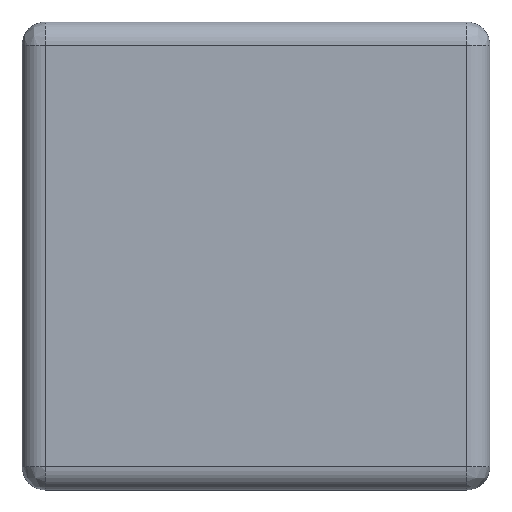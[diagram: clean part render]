
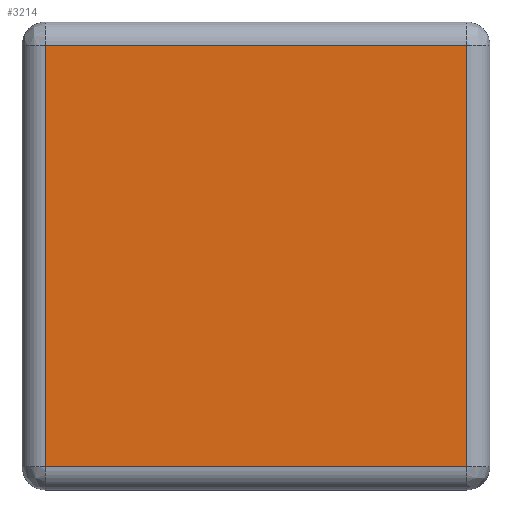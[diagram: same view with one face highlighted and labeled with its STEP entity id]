
A CAD part, top view. The second image highlights one B-rep face of the part: STEP entity #3214.
In plain terms, the highlighted planar face has unit normal (0, 0, 1).
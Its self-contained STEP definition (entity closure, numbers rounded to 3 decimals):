
#28 = FACE_OUTER_BOUND ( 'NONE', #3471, .T. ) ;
#85 = CARTESIAN_POINT ( 'NONE',  ( -18., 18., 0. ) ) ;
#118 = VECTOR ( 'NONE', #3511, 1000. ) ;
#157 = AXIS2_PLACEMENT_3D ( 'NONE', #5187, #1324, #3037 ) ;
#260 = LINE ( 'NONE', #4623, #299 ) ;
#299 = VECTOR ( 'NONE', #739, 1000. ) ;
#401 = EDGE_CURVE ( 'NONE', #709, #1022, #1631, .T. ) ;
#709 = VERTEX_POINT ( 'NONE', #5067 ) ;
#739 = DIRECTION ( 'NONE',  ( 0., -1., 0. ) ) ;
#1022 = VERTEX_POINT ( 'NONE', #2239 ) ;
#1265 = CARTESIAN_POINT ( 'NONE',  ( 18., 0., 0. ) ) ;
#1324 = DIRECTION ( 'NONE',  ( 0., 0., 1. ) ) ;
#1631 = LINE ( 'NONE', #1265, #2010 ) ;
#1634 = LINE ( 'NONE', #5499, #5242 ) ;
#1888 = EDGE_CURVE ( 'NONE', #1022, #4277, #2236, .T. ) ;
#2010 = VECTOR ( 'NONE', #3457, 1000. ) ;
#2028 = ORIENTED_EDGE ( 'NONE', *, *, #2042, .T. ) ;
#2042 = EDGE_CURVE ( 'NONE', #4277, #5096, #260, .T. ) ;
#2151 = DIRECTION ( 'NONE',  ( 1., 0., 0. ) ) ;
#2236 = LINE ( 'NONE', #4014, #118 ) ;
#2239 = CARTESIAN_POINT ( 'NONE',  ( 18., 18., 0. ) ) ;
#3037 = DIRECTION ( 'NONE',  ( 1., 0., 0. ) ) ;
#3142 = ORIENTED_EDGE ( 'NONE', *, *, #4187, .T. ) ;
#3214 = ADVANCED_FACE ( 'NONE', ( #28 ), #3458, .T. ) ;
#3457 = DIRECTION ( 'NONE',  ( 0., 1., 0. ) ) ;
#3458 = PLANE ( 'NONE',  #157 ) ;
#3471 = EDGE_LOOP ( 'NONE', ( #3142, #5060, #3581, #2028 ) ) ;
#3511 = DIRECTION ( 'NONE',  ( -1., 0., 0. ) ) ;
#3581 = ORIENTED_EDGE ( 'NONE', *, *, #1888, .T. ) ;
#4014 = CARTESIAN_POINT ( 'NONE',  ( 0., 18., 0. ) ) ;
#4187 = EDGE_CURVE ( 'NONE', #5096, #709, #1634, .T. ) ;
#4277 = VERTEX_POINT ( 'NONE', #85 ) ;
#4623 = CARTESIAN_POINT ( 'NONE',  ( -18., 0., 0. ) ) ;
#4650 = CARTESIAN_POINT ( 'NONE',  ( -18., -18., 0. ) ) ;
#5060 = ORIENTED_EDGE ( 'NONE', *, *, #401, .T. ) ;
#5067 = CARTESIAN_POINT ( 'NONE',  ( 18., -18., 0. ) ) ;
#5096 = VERTEX_POINT ( 'NONE', #4650 ) ;
#5187 = CARTESIAN_POINT ( 'NONE',  ( 0., 0., 0. ) ) ;
#5242 = VECTOR ( 'NONE', #2151, 1000. ) ;
#5499 = CARTESIAN_POINT ( 'NONE',  ( 0., -18., 0. ) ) ;
